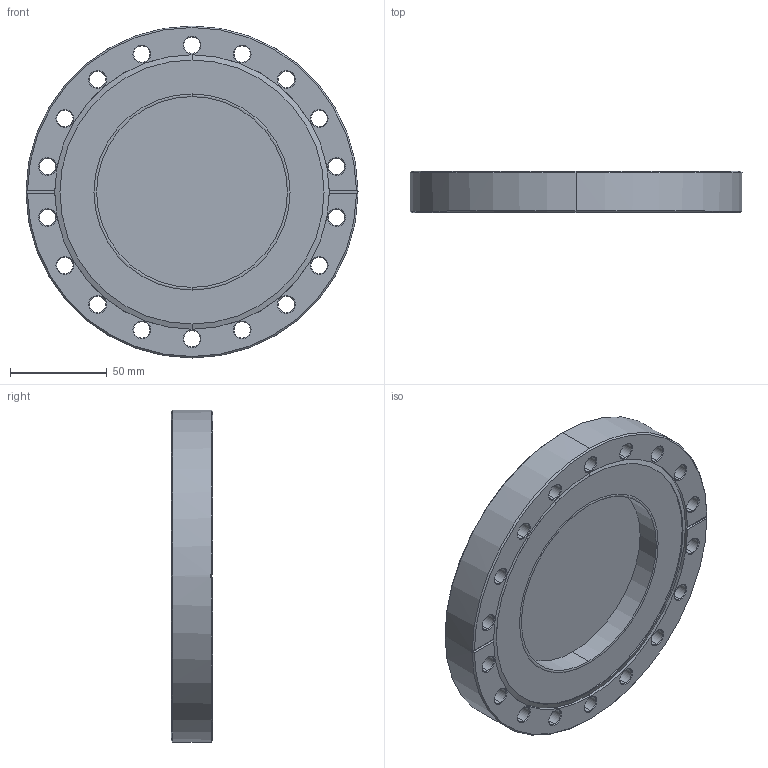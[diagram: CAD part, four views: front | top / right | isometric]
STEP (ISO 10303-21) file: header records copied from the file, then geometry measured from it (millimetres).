
FILE_DESCRIPTION (( 'STEP AP203' ), '1' );
FILE_NAME ('112633.stp', '2022-04-27T21:23:47', ( '' ), ( '' ), 'SwSTEP 2.0', 'SolidWorks 2012', '' );
FILE_SCHEMA (( 'CONFIG_CONTROL_DESIGN' ));
Length unit declared in the file: inch
Products named in the file (1): 112633
Bounding box: 171.45 x 21.34 x 171.45 mm (x, y, z)
Volume: 338431.5 mm3; surface area: 76403.7 mm2
Topology: 1 solids, 1 shells, 147 faces, 360 edges, 219 vertices
Faces by surface type: cone 83, cylinder 48, plane 14, bspline 2
Entity records: 4538 total; most frequent: DIRECTION 859, CARTESIAN_POINT 769, ORIENTED_EDGE 720, EDGE_CURVE 360, AXIS2_PLACEMENT_3D 357, VERTEX_POINT 219, CIRCLE 211, EDGE_LOOP 187
